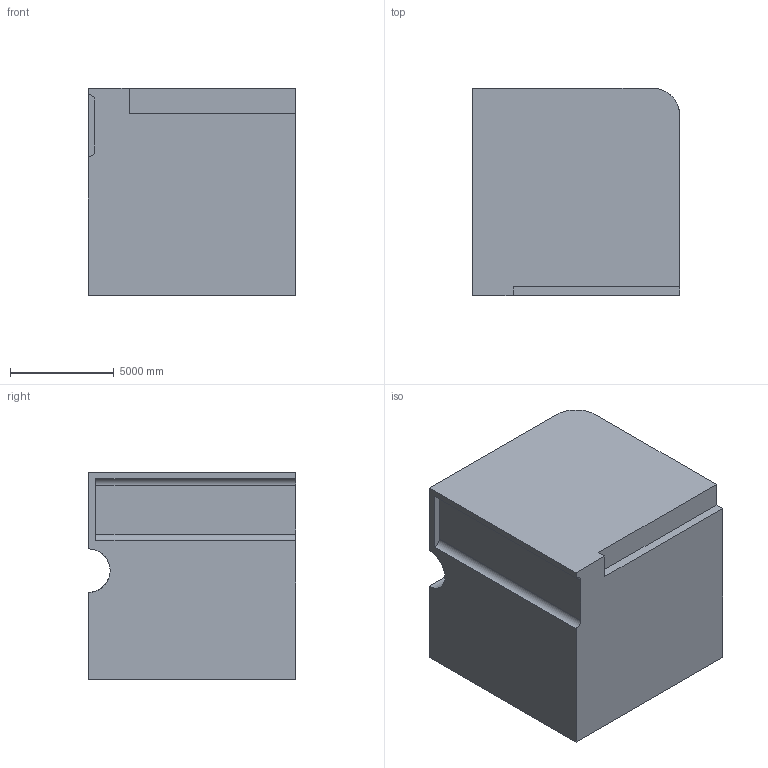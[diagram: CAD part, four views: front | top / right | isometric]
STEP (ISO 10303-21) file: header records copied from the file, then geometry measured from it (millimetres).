
FILE_DESCRIPTION (( 'STEP AP203' ), '1' );
FILE_NAME ('42.STEP', '2022-09-02T13:48:25', ( 'user' ), ( '' ), 'SwSTEP 2.0', 'SolidWorks 2021', '' );
FILE_SCHEMA (( 'CONFIG_CONTROL_DESIGN' ));
Length unit declared in the file: centimetre
Products named in the file (1): 42
Bounding box: 10000 x 10000 x 10000 mm (x, y, z)
Volume: 959889790290.6 mm3; surface area: 625325247.4 mm2
Topology: 1 solids, 1 shells, 19 faces, 51 edges, 34 vertices
Faces by surface type: plane 13, cylinder 6
Entity records: 994 total; most frequent: CARTESIAN_POINT 432, ORIENTED_EDGE 102, DIRECTION 99, EDGE_CURVE 51, LINE 37, VECTOR 37, VERTEX_POINT 34, AXIS2_PLACEMENT_3D 31
